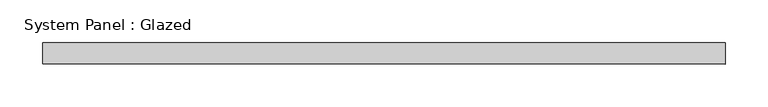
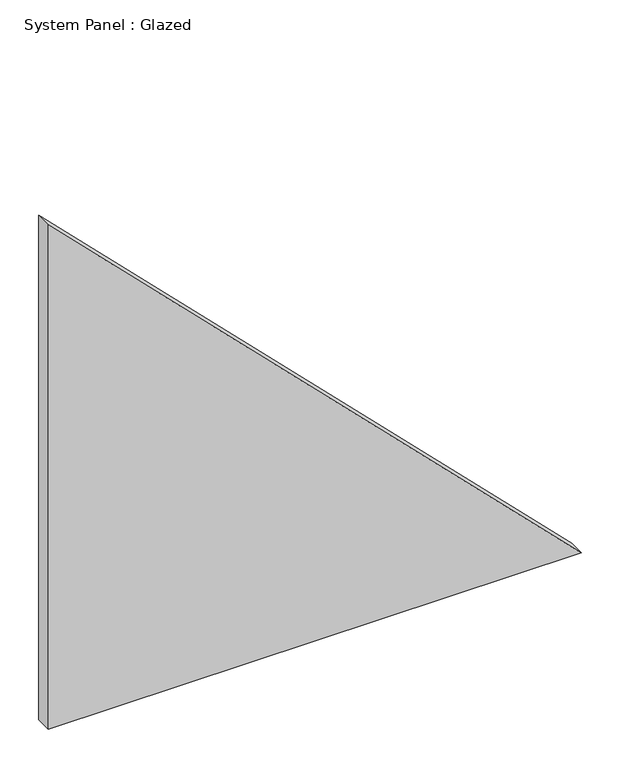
"""IFC4 building model written with IfcOpenShell, lengths in millimetres: plate geometry, System Panel : Glazed."""

from ifc_helpers import new_model, si_unit, frame, origin, place, context, project, spatial, polyline, outline, extrude, source, transform, mapped, element, save


def system_panel_glazed_54a3dccb(model_context):
    return source(origin(), model_context, "Body", "SweptSolid", [
        extrude(outline(polyline([(0.0, -400.0), (0.0, 400.0), (800.0, -400.0), (0.0, -400.0)])), frame((0.0, -49.5, 0.0), z_axis=(0.0, 1.0, 0.0), x_axis=(0.0, 0.0, 1.0)), (0.0, 0.0, 1.0), 25.0),
    ])


if __name__ == "__main__":
    model = new_model("IFC4")
    model_context = context("Model", 3, world=origin())
    ifc_project = project(units=[si_unit("LENGTHUNIT", "METRE", prefix="MILLI")], contexts=[model_context])
    site = spatial("IfcSite", under=ifc_project)
    building = spatial("IfcBuilding", under=site)
    placement = place(None, origin())
    system_panel_glazed_shape = system_panel_glazed_54a3dccb(model_context)
    element("IfcPlate", 1, ObjectType="System Panel : Glazed", at=placement, inside=building, context=model_context, shape_type="MappedRepresentation", body=[
        mapped(system_panel_glazed_shape, transform((0.0, 0.0, 0.0), x_axis=(1.0, 0.0, 0.0), y_axis=(0.0, 1.0, 0.0), z_axis=(0.0, 0.0, 1.0))),
    ])
    save(model, "model.ifc")
